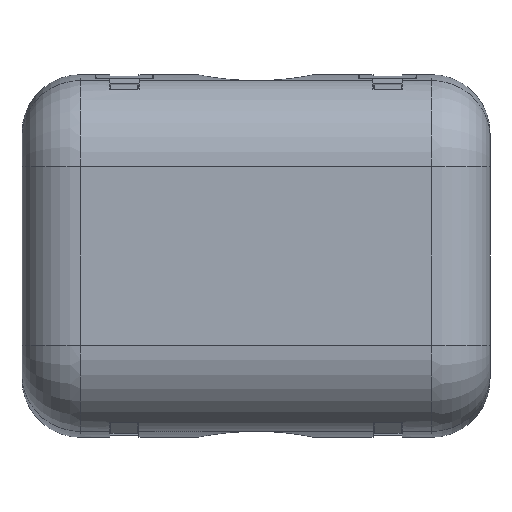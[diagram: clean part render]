
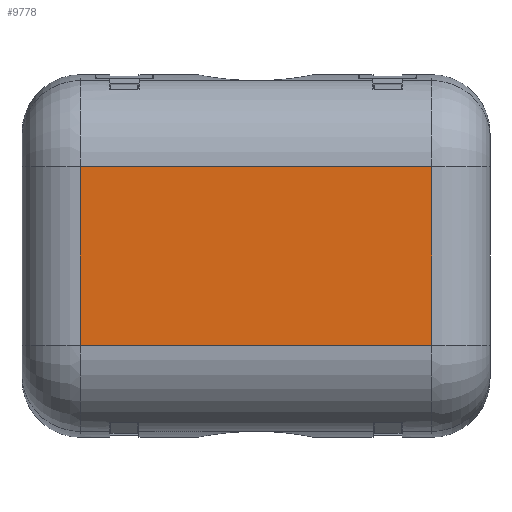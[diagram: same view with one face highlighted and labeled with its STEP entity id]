
A CAD part, front view. The second image highlights one B-rep face of the part: STEP entity #9778.
In plain terms, the highlighted planar face has unit normal (0, -1, 0) as drawn and (0, 1, 0) by its records, which use the part's own axes.
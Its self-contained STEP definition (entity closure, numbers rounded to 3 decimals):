
#446 = VERTEX_POINT ( 'NONE', #10789 ) ;
#709 = ORIENTED_EDGE ( 'NONE', *, *, #11005, .T. ) ;
#789 = DIRECTION ( 'NONE',  ( 0., 0., -1. ) ) ;
#1197 = CARTESIAN_POINT ( 'NONE',  ( 70., 22., -15.293 ) ) ;
#1441 = ORIENTED_EDGE ( 'NONE', *, *, #12363, .T. ) ;
#1867 = PLANE ( 'NONE',  #3584 ) ;
#2596 = DIRECTION ( 'NONE',  ( -1., 0., 0. ) ) ;
#3483 = DIRECTION ( 'NONE',  ( 0., 0., 1. ) ) ;
#3584 = AXIS2_PLACEMENT_3D ( 'NONE', #18095, #5934, #5316 ) ;
#5316 = DIRECTION ( 'NONE',  ( 0., 0., -1. ) ) ;
#5934 = DIRECTION ( 'NONE',  ( 0., -1., 0. ) ) ;
#5947 = FACE_OUTER_BOUND ( 'NONE', #6502, .T. ) ;
#6502 = EDGE_LOOP ( 'NONE', ( #709, #1441, #16634, #24927 ) ) ;
#6716 = CARTESIAN_POINT ( 'NONE',  ( 10., 22., 15.293 ) ) ;
#6937 = VERTEX_POINT ( 'NONE', #1197 ) ;
#9778 = ADVANCED_FACE ( 'NONE', ( #5947 ), #1867, .F. ) ;
#10084 = VERTEX_POINT ( 'NONE', #6716 ) ;
#10789 = CARTESIAN_POINT ( 'NONE',  ( 70., 22., 15.293 ) ) ;
#11005 = EDGE_CURVE ( 'NONE', #6937, #22461, #26194, .T. ) ;
#12363 = EDGE_CURVE ( 'NONE', #22461, #10084, #13760, .T. ) ;
#12772 = CARTESIAN_POINT ( 'NONE',  ( 80., 22., 15.293 ) ) ;
#13760 = LINE ( 'NONE', #23689, #21685 ) ;
#14326 = CARTESIAN_POINT ( 'NONE',  ( 10., 22., -15.293 ) ) ;
#14980 = CARTESIAN_POINT ( 'NONE',  ( 70., 22., -15.293 ) ) ;
#16596 = VECTOR ( 'NONE', #2596, 1000. ) ;
#16634 = ORIENTED_EDGE ( 'NONE', *, *, #23543, .F. ) ;
#17061 = VECTOR ( 'NONE', #789, 1000. ) ;
#18095 = CARTESIAN_POINT ( 'NONE',  ( 80., 22., 15.293 ) ) ;
#18399 = CARTESIAN_POINT ( 'NONE',  ( 80., 22., -15.293 ) ) ;
#18493 = EDGE_CURVE ( 'NONE', #446, #6937, #24993, .T. ) ;
#20507 = DIRECTION ( 'NONE',  ( -1., 0., 0. ) ) ;
#20789 = VECTOR ( 'NONE', #20507, 1000. ) ;
#21685 = VECTOR ( 'NONE', #3483, 1000. ) ;
#22461 = VERTEX_POINT ( 'NONE', #14326 ) ;
#23543 = EDGE_CURVE ( 'NONE', #446, #10084, #23551, .T. ) ;
#23551 = LINE ( 'NONE', #12772, #16596 ) ;
#23689 = CARTESIAN_POINT ( 'NONE',  ( 10., 22., 15.293 ) ) ;
#24927 = ORIENTED_EDGE ( 'NONE', *, *, #18493, .T. ) ;
#24993 = LINE ( 'NONE', #14980, #17061 ) ;
#26194 = LINE ( 'NONE', #18399, #20789 ) ;
